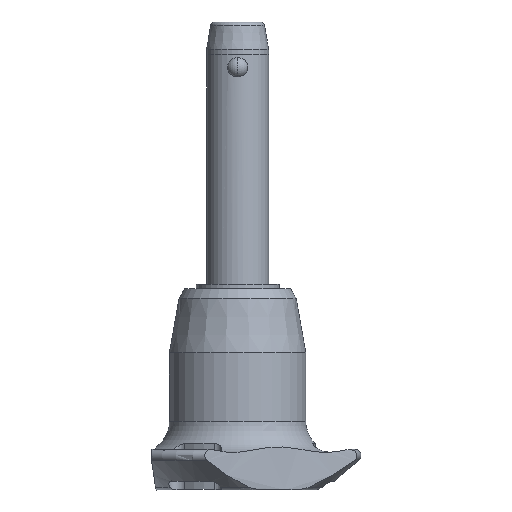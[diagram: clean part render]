
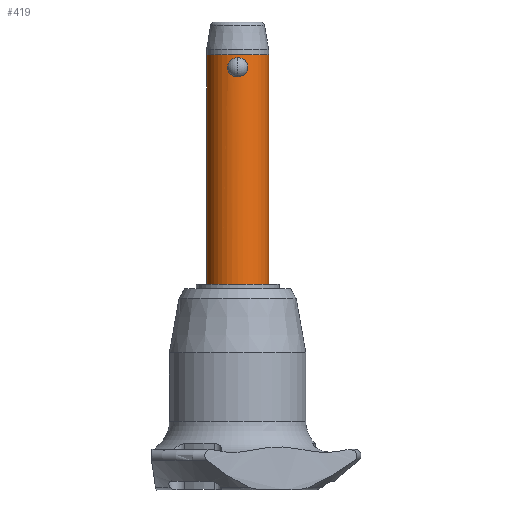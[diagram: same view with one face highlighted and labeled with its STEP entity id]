
A CAD part, front view. The second image highlights one B-rep face of the part: STEP entity #419.
In plain terms, the highlighted cylindrical face has radius 6 mm (diameter 12 mm), a partial arc.
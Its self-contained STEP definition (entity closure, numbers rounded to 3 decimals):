
#29 = VERTEX_POINT ( 'NONE', #304 ) ;
#63 = FACE_OUTER_BOUND ( 'NONE', #506, .T. ) ;
#118 = CARTESIAN_POINT ( 'NONE',  ( 0.966, -5.923, 0.232 ) ) ;
#131 = CARTESIAN_POINT ( 'NONE',  ( 1.942, -5.677, 2.103 ) ) ;
#172 = CARTESIAN_POINT ( 'NONE',  ( -6., 0., 4.24 ) ) ;
#199 = CARTESIAN_POINT ( 'NONE',  ( -1.75, -5.74, 2.7 ) ) ;
#216 = CARTESIAN_POINT ( 'NONE',  ( -0.252, -5.996, 3.697 ) ) ;
#259 = DIRECTION ( 'NONE',  ( 0., 0., 1. ) ) ;
#304 = CARTESIAN_POINT ( 'NONE',  ( 0., -6., 0. ) ) ;
#311 = DIRECTION ( 'NONE',  ( 1., 0., 0. ) ) ;
#318 = EDGE_CURVE ( 'NONE', #1799, #493, #927, .T. ) ;
#321 = CARTESIAN_POINT ( 'NONE',  ( 1.459, -5.821, 0.604 ) ) ;
#353 = CARTESIAN_POINT ( 'NONE',  ( 1.687, -5.758, 0.899 ) ) ;
#368 = CARTESIAN_POINT ( 'NONE',  ( 1.901, -5.692, 1.35 ) ) ;
#387 = CIRCLE ( 'NONE', #2239, 6. ) ;
#419 = ADVANCED_FACE ( 'NONE', ( #63, #1625 ), #2533, .T. ) ;
#423 = CARTESIAN_POINT ( 'NONE',  ( -1.955, -5.673, 1.731 ) ) ;
#453 = CARTESIAN_POINT ( 'NONE',  ( -1.89, -5.695, 1.358 ) ) ;
#464 = CARTESIAN_POINT ( 'NONE',  ( -1.541, -5.799, 3.011 ) ) ;
#493 = VERTEX_POINT ( 'NONE', #172 ) ;
#499 = ORIENTED_EDGE ( 'NONE', *, *, #2125, .F. ) ;
#506 = EDGE_LOOP ( 'NONE', ( #951, #499, #2492, #589 ) ) ;
#549 = CARTESIAN_POINT ( 'NONE',  ( 0.853, -5.94, 0.177 ) ) ;
#561 = CARTESIAN_POINT ( 'NONE',  ( 1.178, -5.884, 3.346 ) ) ;
#574 = B_SPLINE_CURVE_WITH_KNOTS ( 'NONE', 3,
 ( #1579, #1797, #216, #2485, #2696, #1100, #2011, #1526, #844, #2890, #464, #1784, #199, #1749, #658, #423, #2039, #453, #1814, #1322, #1353, #2496, #2727, #2920, #1084, #2229, #1553, #2934 ),
 .UNSPECIFIED., .F., .F.,
 ( 4, 2, 2, 2, 2, 2, 2, 2, 2, 2, 2, 2, 2, 4 ),
 ( 0., 0., 0.001, 0.001, 0.002, 0.002, 0.002, 0.003, 0.003, 0.004, 0.005, 0.005, 0.005, 0.006 ),
 .UNSPECIFIED. ) ;
#581 = CARTESIAN_POINT ( 'NONE',  ( 0., -6., 3.708 ) ) ;
#589 = ORIENTED_EDGE ( 'NONE', *, *, #1341, .F. ) ;
#658 = CARTESIAN_POINT ( 'NONE',  ( -1.955, -5.673, 2.107 ) ) ;
#713 = VECTOR ( 'NONE', #2706, 1000. ) ;
#726 = DIRECTION ( 'NONE',  ( 0., 0., -1. ) ) ;
#828 = CARTESIAN_POINT ( 'NONE',  ( 0.855, -5.94, 3.53 ) ) ;
#844 = CARTESIAN_POINT ( 'NONE',  ( -1.278, -5.863, 3.271 ) ) ;
#900 = CIRCLE ( 'NONE', #2322, 6. ) ;
#927 = LINE ( 'NONE', #1596, #1046 ) ;
#951 = ORIENTED_EDGE ( 'NONE', *, *, #318, .F. ) ;
#987 = CARTESIAN_POINT ( 'NONE',  ( 1.543, -5.799, 0.699 ) ) ;
#1021 = ORIENTED_EDGE ( 'NONE', *, *, #2047, .F. ) ;
#1032 = CARTESIAN_POINT ( 'NONE',  ( 1.749, -5.74, 1.007 ) ) ;
#1046 = VECTOR ( 'NONE', #2462, 1000. ) ;
#1084 = CARTESIAN_POINT ( 'NONE',  ( -0.853, -5.94, 0.177 ) ) ;
#1100 = CARTESIAN_POINT ( 'NONE',  ( -0.854, -5.94, 3.53 ) ) ;
#1143 = CARTESIAN_POINT ( 'NONE',  ( 0., 0., -40. ) ) ;
#1227 = CARTESIAN_POINT ( 'NONE',  ( 0.25, -6., 0. ) ) ;
#1243 = CARTESIAN_POINT ( 'NONE',  ( 1.279, -5.863, 3.27 ) ) ;
#1270 = CARTESIAN_POINT ( 'NONE',  ( 1.277, -5.863, 0.437 ) ) ;
#1272 = ORIENTED_EDGE ( 'NONE', *, *, #2194, .F. ) ;
#1322 = CARTESIAN_POINT ( 'NONE',  ( -1.7, -5.755, 0.895 ) ) ;
#1341 = EDGE_CURVE ( 'NONE', #493, #2497, #900, .T. ) ;
#1353 = CARTESIAN_POINT ( 'NONE',  ( -1.551, -5.799, 0.69 ) ) ;
#1383 = VERTEX_POINT ( 'NONE', #2794 ) ;
#1403 = DIRECTION ( 'NONE',  ( 0., 0., 1. ) ) ;
#1409 = CARTESIAN_POINT ( 'NONE',  ( -6., 0., -40. ) ) ;
#1413 = DIRECTION ( 'NONE',  ( 1., 0., 0. ) ) ;
#1442 = CARTESIAN_POINT ( 'NONE',  ( 0.498, -5.981, 3.652 ) ) ;
#1503 = CARTESIAN_POINT ( 'NONE',  ( 0., -6., 0. ) ) ;
#1526 = CARTESIAN_POINT ( 'NONE',  ( -1.177, -5.884, 3.347 ) ) ;
#1553 = CARTESIAN_POINT ( 'NONE',  ( -0.25, -6., 0. ) ) ;
#1564 = AXIS2_PLACEMENT_3D ( 'NONE', #2754, #259, #2336 ) ;
#1579 = CARTESIAN_POINT ( 'NONE',  ( 0., -6., 3.708 ) ) ;
#1580 = VERTEX_POINT ( 'NONE', #2246 ) ;
#1596 = CARTESIAN_POINT ( 'NONE',  ( -6., 0., -40. ) ) ;
#1625 = FACE_BOUND ( 'NONE', #2230, .T. ) ;
#1682 = CARTESIAN_POINT ( 'NONE',  ( 1.955, -5.673, 1.6 ) ) ;
#1697 = CARTESIAN_POINT ( 'NONE',  ( 1.178, -5.884, 0.362 ) ) ;
#1714 = CARTESIAN_POINT ( 'NONE',  ( 1.7, -5.755, 2.812 ) ) ;
#1749 = CARTESIAN_POINT ( 'NONE',  ( -1.9, -5.692, 2.359 ) ) ;
#1784 = CARTESIAN_POINT ( 'NONE',  ( -1.687, -5.759, 2.809 ) ) ;
#1797 = CARTESIAN_POINT ( 'NONE',  ( -0.127, -6., 3.708 ) ) ;
#1799 = VERTEX_POINT ( 'NONE', #1409 ) ;
#1814 = CARTESIAN_POINT ( 'NONE',  ( -1.852, -5.707, 1.239 ) ) ;
#1960 = CARTESIAN_POINT ( 'NONE',  ( 1.551, -5.799, 3.018 ) ) ;
#2011 = CARTESIAN_POINT ( 'NONE',  ( -0.966, -5.923, 3.476 ) ) ;
#2039 = CARTESIAN_POINT ( 'NONE',  ( -1.942, -5.677, 1.604 ) ) ;
#2047 = EDGE_CURVE ( 'NONE', #1580, #29, #574, .T. ) ;
#2125 = EDGE_CURVE ( 'NONE', #1383, #1799, #387, .T. ) ;
#2127 = CARTESIAN_POINT ( 'NONE',  ( 0.127, -6., 3.708 ) ) ;
#2143 = CARTESIAN_POINT ( 'NONE',  ( 0.62, -5.969, 3.619 ) ) ;
#2158 = CARTESIAN_POINT ( 'NONE',  ( 0.503, -5.983, 0.045 ) ) ;
#2194 = EDGE_CURVE ( 'NONE', #29, #1580, #2559, .T. ) ;
#2195 = LINE ( 'NONE', #2438, #713 ) ;
#2229 = CARTESIAN_POINT ( 'NONE',  ( -0.504, -5.983, 0.045 ) ) ;
#2230 = EDGE_LOOP ( 'NONE', ( #1021, #1272 ) ) ;
#2239 = AXIS2_PLACEMENT_3D ( 'NONE', #1143, #726, #1413 ) ;
#2246 = CARTESIAN_POINT ( 'NONE',  ( 0., -6., 3.708 ) ) ;
#2322 = AXIS2_PLACEMENT_3D ( 'NONE', #2587, #1403, #311 ) ;
#2336 = DIRECTION ( 'NONE',  ( 1., 0., 0. ) ) ;
#2347 = CARTESIAN_POINT ( 'NONE',  ( 6., 0., 4.24 ) ) ;
#2353 = EDGE_CURVE ( 'NONE', #1383, #2497, #2195, .T. ) ;
#2356 = CARTESIAN_POINT ( 'NONE',  ( 1.955, -5.673, 1.979 ) ) ;
#2386 = CARTESIAN_POINT ( 'NONE',  ( 1.89, -5.695, 2.349 ) ) ;
#2402 = CARTESIAN_POINT ( 'NONE',  ( 0.966, -5.923, 3.476 ) ) ;
#2438 = CARTESIAN_POINT ( 'NONE',  ( 6., 0., -40. ) ) ;
#2462 = DIRECTION ( 'NONE',  ( 0., 0., 1. ) ) ;
#2485 = CARTESIAN_POINT ( 'NONE',  ( -0.498, -5.981, 3.652 ) ) ;
#2492 = ORIENTED_EDGE ( 'NONE', *, *, #2353, .T. ) ;
#2496 = CARTESIAN_POINT ( 'NONE',  ( -1.278, -5.863, 0.437 ) ) ;
#2497 = VERTEX_POINT ( 'NONE', #2347 ) ;
#2533 = CYLINDRICAL_SURFACE ( 'NONE', #1564, 6. ) ;
#2559 = B_SPLINE_CURVE_WITH_KNOTS ( 'NONE', 3,
 ( #1503, #1227, #2158, #549, #118, #1697, #1270, #321, #987, #353, #1032, #368, #1682, #2356, #131, #2386, #2611, #1714, #1960, #1243, #561, #2402, #828, #2143, #1442, #2854, #2127, #581 ),
 .UNSPECIFIED., .F., .F.,
 ( 4, 2, 2, 2, 2, 2, 2, 2, 2, 2, 2, 2, 2, 4 ),
 ( 0.006, 0.007, 0.007, 0.008, 0.008, 0.008, 0.009, 0.009, 0.01, 0.011, 0.011, 0.011, 0.012, 0.012 ),
 .UNSPECIFIED. ) ;
#2587 = CARTESIAN_POINT ( 'NONE',  ( 0., 0., 4.24 ) ) ;
#2611 = CARTESIAN_POINT ( 'NONE',  ( 1.851, -5.708, 2.47 ) ) ;
#2696 = CARTESIAN_POINT ( 'NONE',  ( -0.62, -5.969, 3.619 ) ) ;
#2706 = DIRECTION ( 'NONE',  ( 0., 0., 1. ) ) ;
#2727 = CARTESIAN_POINT ( 'NONE',  ( -1.179, -5.884, 0.363 ) ) ;
#2754 = CARTESIAN_POINT ( 'NONE',  ( 0., 0., -40. ) ) ;
#2794 = CARTESIAN_POINT ( 'NONE',  ( 6., 0., -40. ) ) ;
#2854 = CARTESIAN_POINT ( 'NONE',  ( 0.252, -5.996, 3.697 ) ) ;
#2890 = CARTESIAN_POINT ( 'NONE',  ( -1.46, -5.821, 3.103 ) ) ;
#2920 = CARTESIAN_POINT ( 'NONE',  ( -0.967, -5.923, 0.233 ) ) ;
#2934 = CARTESIAN_POINT ( 'NONE',  ( 0., -6., 0. ) ) ;
